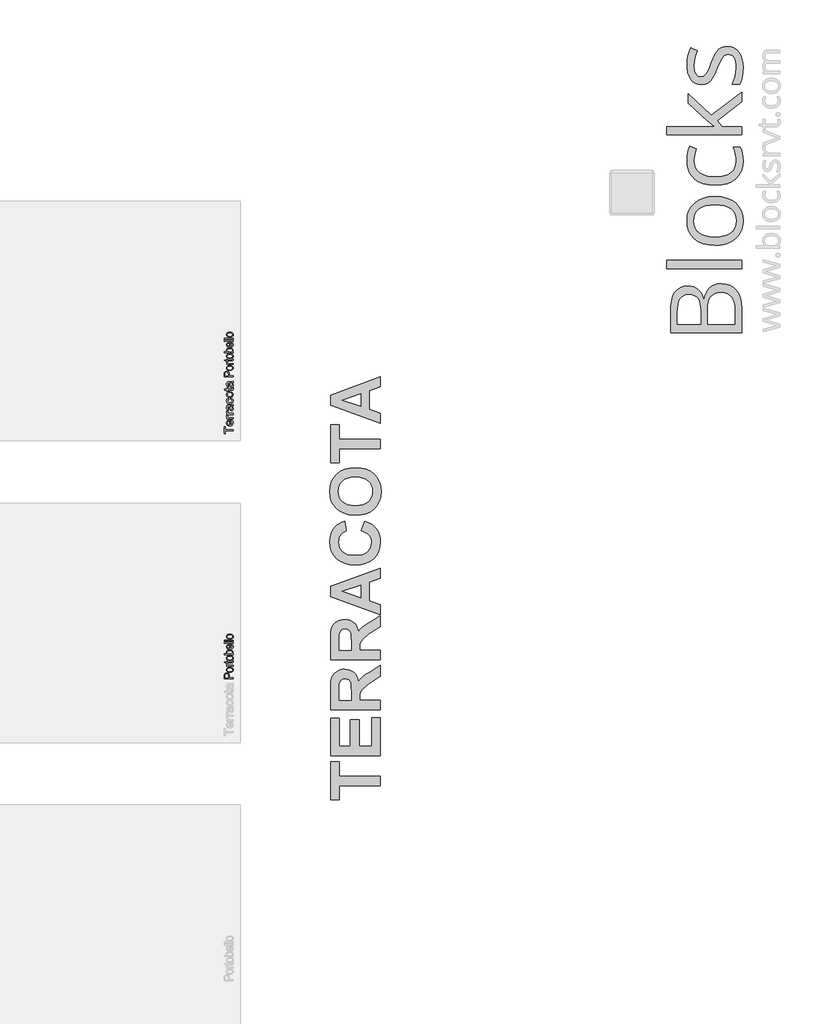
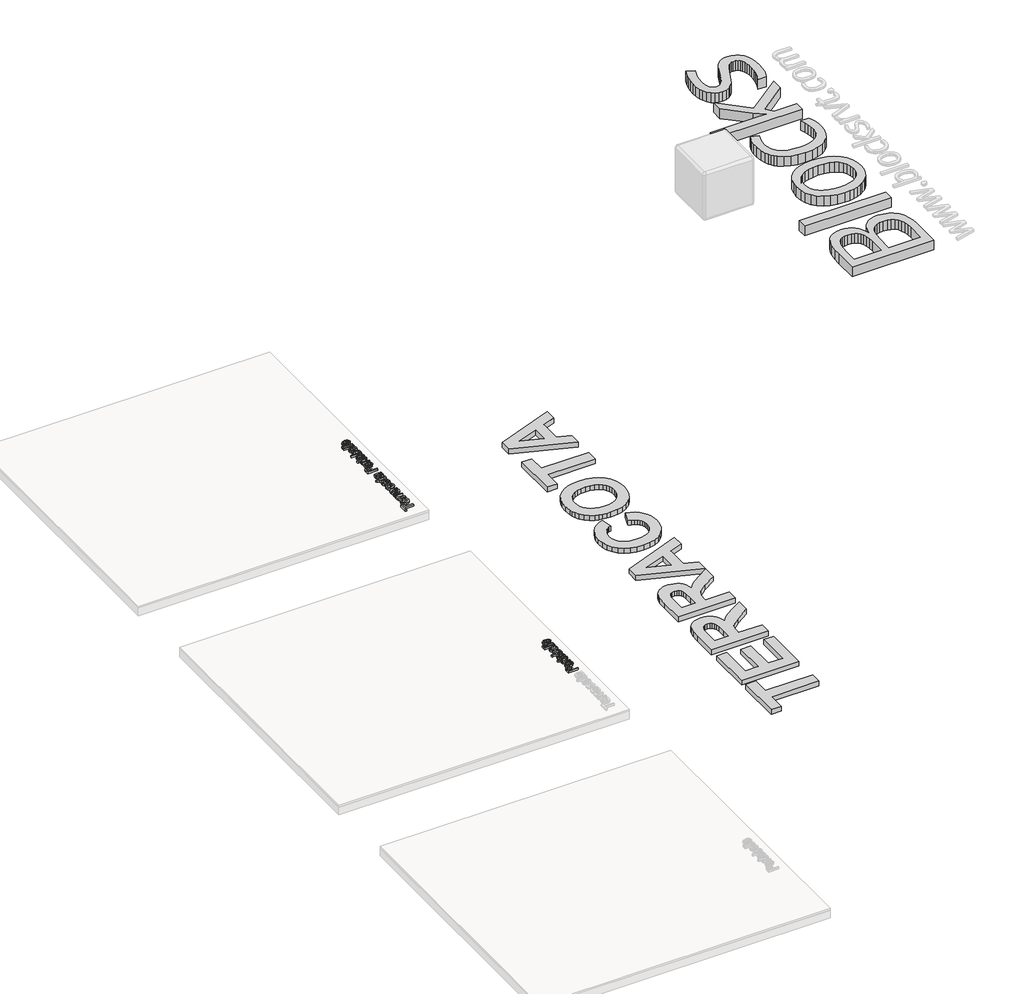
# One storey, part 11 of 12: 5 proxies.
"""IFC4 building model written with IfcOpenShell, lengths in millimetres."""

from ifc_helpers import new_model, si_unit, frame, origin, origin_with_axes, place, context, project, spatial, polyline, outline, extrude, element, save

model = new_model("IFC4")

# Units and contexts
model_context = context("Model", 3, world=origin())
ifc_project = project(units=[si_unit("LENGTHUNIT", "METRE", prefix="MILLI")], contexts=[model_context])

# Site, building, storey
site = spatial("IfcSite", under=ifc_project)
building = spatial("IfcBuilding", under=site)
storey = spatial("IfcBuildingStorey", under=building, Name="PORTOBELLO - SHOWROOM", Elevation=0.0)

# Proxies
placement = place(None, origin())
element("IfcBuildingElementProxy", 1, Name="10mm Arial", ObjectType="10mm Arial", at=placement, inside=storey, context=model_context, shape_type="SweptSolid", body=[
    extrude(outline(polyline([(-15769.6004774, 8757.1715522), (-15857.4997488, 8757.1715522), (-15857.4997488, 8724.2093254), (-15870.0567876, 8724.2093254), (-15870.0567876, 8802.6908177), (-15857.4997488, 8802.6908177), (-15857.4997488, 8769.7285909), (-15769.6004774, 8769.7285909), (-15769.6004774, 8757.1715522)])), frame((0.0, 0.0, 17.0), z_axis=(0.0, 0.0, 1.0), x_axis=(1.0, 0.0, 0.0)), (0.0, 0.0, 1.0), 20.0),
    extrude(outline(polyline([(-15791.5752953, 8866.8984886), (-15790.0056654, 8879.2102727), (-15780.7289078, 8874.774229), (-15773.7943322, 8867.6955663), (-15769.4717187, 8858.1337001), (-15768.0308476, 8846.2480459), (-15770.5171167, 8831.514372), (-15777.9759242, 8820.1774752), (-15789.922892, 8812.948594), (-15805.8736422, 8810.5389669), (-15822.3608869, 8812.9731195), (-15834.6910651, 8820.2755771), (-15842.3797988, 8831.4591897), (-15844.94271, 8845.5368074), (-15842.3859302, 8859.1760324), (-15834.7155906, 8870.0745365), (-15822.4099378, 8877.2206442), (-15805.9472185, 8879.6026802), (-15802.5627042, 8879.5291038), (-15802.5627042, 8823.0960057), (-15793.1633192, 8825.2695752), (-15786.2532691, 8830.3187555), (-15782.004232, 8837.6058847), (-15780.5878863, 8846.4933006), (-15783.2121112, 8858.8050847), (-15791.5752953, 8866.8984886)]), holes=[polyline([(-15815.119743, 8823.0960057), (-15815.119743, 8867.0456414), (-15826.4995593, 8862.0179208), (-15830.9141433, 8854.6970691), (-15832.3856713, 8845.4877565), (-15827.6890445, 8830.02445), (-15822.1984057, 8825.1592106), (-15815.119743, 8823.0960057)])]), frame((0.0, 0.0, 17.0), z_axis=(0.0, 0.0, 1.0), x_axis=(1.0, 0.0, 0.0)), (0.0, 0.0, 1.0), 20.0),
    extrude(outline(polyline([(-15769.6004774, 8892.1597189), (-15843.3730802, 8892.1597189), (-15843.3730802, 8903.1471279), (-15832.4592477, 8903.1471279), (-15842.5146889, 8910.9462262), (-15844.94271, 8918.7943754), (-15841.0676864, 8931.4004651), (-15829.8104973, 8927.2066103), (-15832.3856713, 8918.3774425), (-15829.9085992, 8911.27732), (-15823.0414686, 8906.7523714), (-15808.3752397, 8904.7167577), (-15769.6004774, 8904.7167577), (-15769.6004774, 8892.1597189)])), frame((0.0, 0.0, 17.0), z_axis=(0.0, 0.0, 1.0), x_axis=(1.0, 0.0, 0.0)), (0.0, 0.0, 1.0), 20.0),
    extrude(outline(polyline([(-15769.6004774, 8939.2486143), (-15843.3730802, 8939.2486143), (-15843.3730802, 8950.2360232), (-15832.4592477, 8950.2360232), (-15842.5146889, 8958.0351215), (-15844.94271, 8965.8832708), (-15841.0676864, 8978.4893605), (-15829.8104973, 8974.2955057), (-15832.3856713, 8965.4663378), (-15829.9085992, 8958.3662153), (-15823.0414686, 8953.8412668), (-15808.3752397, 8951.8056531), (-15769.6004774, 8951.8056531), (-15769.6004774, 8939.2486143)])), frame((0.0, 0.0, 17.0), z_axis=(0.0, 0.0, 1.0), x_axis=(1.0, 0.0, 0.0)), (0.0, 0.0, 1.0), 20.0),
    extrude(outline(polyline([(-15779.0182565, 9033.4264051), (-15770.5079197, 9021.249511), (-15768.0308476, 9007.7972928), (-15769.5207697, 8997.3034588), (-15773.9905359, 8989.5626085), (-15780.7779587, 8984.7893396), (-15789.2208505, 8983.19825), (-15799.1536644, 8985.6017457), (-15806.3641515, 8991.9170533), (-15810.4844298, 9000.709433), (-15812.3728907, 9011.5742146), (-15816.6893728, 9033.3528287), (-15819.485276, 9033.4264051), (-15828.7559023, 9029.9683143), (-15832.3856713, 9016.0869004), (-15829.9699128, 9003.3827088), (-15821.3982623, 8997.3249186), (-15822.9678922, 8984.7678799), (-15835.2306254, 8990.2002707), (-15842.416587, 9001.1386286), (-15844.94271, 9017.7055812), (-15842.7108926, 9032.923633), (-15837.1068235, 9041.519809), (-15828.584224, 9045.3703072), (-15817.5968151, 9045.9834439), (-15801.974093, 9045.9834439), (-15780.1586907, 9046.621106), (-15769.6004774, 9049.1227035), (-15769.6004774, 9036.5656648), (-15779.0182565, 9033.4264051)]), holes=[polyline([(-15804.132334, 9033.4264051), (-15800.2818358, 9013.1683699), (-15798.2462221, 9002.364902), (-15794.9352842, 8997.4720714), (-15790.1037673, 8995.7552888), (-15783.3102131, 8999.4954224), (-15780.5878863, 9010.4705686), (-15783.592256, 9023.1747602), (-15790.8640567, 9031.3662659), (-15800.5761414, 9033.3528287), (-15804.132334, 9033.4264051)])]), frame((0.0, 0.0, 17.0), z_axis=(0.0, 0.0, 1.0), x_axis=(1.0, 0.0, 0.0)), (0.0, 0.0, 1.0), 20.0),
    extrude(outline(polyline([(-15796.2841848, 9110.3382675), (-15794.714555, 9122.8953063), (-15783.5462707, 9119.394296), (-15775.1064446, 9112.8153396), (-15769.7997468, 9103.7777053), (-15768.0308476, 9092.900661), (-15770.4987226, 9079.5434789), (-15777.9023478, 9069.0986959), (-15789.9167606, 9062.3572583), (-15806.2169987, 9060.1101125), (-15827.0759078, 9063.948348), (-15840.4790752, 9075.6469954), (-15844.94271, 9092.7289827), (-15843.4098684, 9103.3393126), (-15838.8113435, 9111.8220583), (-15831.3923899, 9117.9074396), (-15821.3982623, 9121.3256765), (-15819.8286325, 9108.7686377), (-15829.2341488, 9102.9438394), (-15832.3856713, 9092.8270846), (-15830.8344355, 9084.7122209), (-15826.1807283, 9078.2712203), (-15818.1731635, 9074.0681685), (-15806.5603552, 9072.6671512), (-15794.791197, 9074.0375117), (-15786.7560411, 9078.148593), (-15782.129925, 9084.4730976), (-15780.5878863, 9092.483728), (-15784.4383846, 9104.3172656), (-15796.2841848, 9110.3382675)])), frame((0.0, 0.0, 17.0), z_axis=(0.0, 0.0, 1.0), x_axis=(1.0, 0.0, 0.0)), (0.0, 0.0, 1.0), 20.0),
    extrude(outline(polyline([(-15806.4867788, 9130.7434555), (-15824.2738733, 9133.4596509), (-15836.7757297, 9141.6082371), (-15842.900965, 9151.6759411), (-15844.94271, 9163.7302078), (-15842.4564409, 9176.921843), (-15834.9976334, 9187.4585965), (-15823.1548989, 9194.3655809), (-15807.5168484, 9196.6679091), (-15785.1741486, 9192.5966817), (-15772.5312707, 9180.7386187), (-15768.0308476, 9163.7302078), (-15770.5079197, 9150.379157), (-15777.939136, 9139.8546663), (-15790.0301909, 9133.0212582), (-15806.4867788, 9130.7434555)]), holes=[polyline([(-15806.5113043, 9143.3004943), (-15795.1468163, 9144.7536282), (-15787.0503467, 9149.1130298), (-15782.2035014, 9155.6735921), (-15780.5878863, 9163.7302078), (-15782.2126985, 9171.7500353), (-15787.0871349, 9178.2983348), (-15795.2909034, 9182.6577364), (-15806.9037117, 9184.1108703), (-15817.9371059, 9182.6485394), (-15825.9232109, 9178.2615466), (-15830.7700562, 9171.70405), (-15832.3856713, 9163.7302078), (-15830.7761875, 9155.6735921), (-15825.9477364, 9149.1130298), (-15817.8696609, 9144.7536282), (-15806.5113043, 9143.3004943)])]), frame((0.0, 0.0, 17.0), z_axis=(0.0, 0.0, 1.0), x_axis=(1.0, 0.0, 0.0)), (0.0, 0.0, 1.0), 20.0),
    extrude(outline(polyline([(-15780.0728516, 9237.4782851), (-15769.2325954, 9239.0479149), (-15768.0308476, 9229.6546613), (-15770.1155122, 9219.1332363), (-15775.5846912, 9213.8847865), (-15789.8339872, 9212.3642075), (-15830.8160414, 9212.3642075), (-15830.8160414, 9202.9464285), (-15843.3730802, 9202.9464285), (-15843.3730802, 9212.3642075), (-15861.3011961, 9212.3642075), (-15868.6833615, 9224.9212463), (-15843.3730802, 9224.9212463), (-15843.3730802, 9237.4782851), (-15830.8160414, 9237.4782851), (-15830.8160414, 9224.9212463), (-15790.2018692, 9224.9212463), (-15783.727146, 9225.5834339), (-15781.4340149, 9227.7294122), (-15780.5878863, 9232.0091061), (-15780.0728516, 9237.4782851)])), frame((0.0, 0.0, 17.0), z_axis=(0.0, 0.0, 1.0), x_axis=(1.0, 0.0, 0.0)), (0.0, 0.0, 1.0), 20.0),
    extrude(outline(polyline([(-15779.0182565, 9297.1242192), (-15770.5079197, 9284.9473252), (-15768.0308476, 9271.4951069), (-15769.5207697, 9261.001273), (-15773.9905359, 9253.2604227), (-15780.7779587, 9248.4871538), (-15789.2208505, 9246.8960642), (-15799.1536644, 9249.2995599), (-15806.3641515, 9255.6148674), (-15810.4844298, 9264.4072471), (-15812.3728907, 9275.2720287), (-15816.6893728, 9297.0506428), (-15819.485276, 9297.1242192), (-15828.7559023, 9293.6661285), (-15832.3856713, 9279.7847145), (-15829.9699128, 9267.080523), (-15821.3982623, 9261.0227328), (-15822.9678922, 9248.465694), (-15835.2306254, 9253.8980848), (-15842.416587, 9264.8364428), (-15844.94271, 9281.4033953), (-15842.7108926, 9296.6214472), (-15837.1068235, 9305.2176231), (-15828.584224, 9309.0681213), (-15817.5968151, 9309.681258), (-15801.974093, 9309.681258), (-15780.1586907, 9310.3189201), (-15769.6004774, 9312.8205177), (-15769.6004774, 9300.2634789), (-15779.0182565, 9297.1242192)]), holes=[polyline([(-15804.132334, 9297.1242192), (-15800.2818358, 9276.866184), (-15798.2462221, 9266.0627161), (-15794.9352842, 9261.1698856), (-15790.1037673, 9259.4531029), (-15783.3102131, 9263.1932365), (-15780.5878863, 9274.1683827), (-15783.592256, 9286.8725743), (-15790.8640567, 9295.0640801), (-15800.5761414, 9297.0506428), (-15804.132334, 9297.1242192)])]), frame((0.0, 0.0, 17.0), z_axis=(0.0, 0.0, 1.0), x_axis=(1.0, 0.0, 0.0)), (0.0, 0.0, 1.0), 20.0),
])
element("IfcBuildingElementProxy", 2, Name="10mm Arial Narrow", ObjectType="10mm Arial Narrow", at=placement, inside=storey, context=model_context, shape_type="SweptSolid", body=[
    extrude(outline(polyline([(-15769.6004774, 9364.3713743), (-15870.3190812, 9364.3713743), (-15870.3190812, 9395.6682589), (-15868.4407604, 9411.9639605), (-15858.9603173, 9423.4369466), (-15841.9412084, 9427.726625), (-15829.8653829, 9425.9403166), (-15820.2389891, 9420.5813914), (-15813.9377307, 9410.8376026), (-15811.8373113, 9395.8967034), (-15811.8373113, 9374.1183359), (-15769.6004774, 9374.1183359), (-15769.6004774, 9364.3713743)]), holes=[polyline([(-15823.2087665, 9374.1183359), (-15823.2087665, 9397.0896909), (-15827.7395807, 9412.9538863), (-15841.4081715, 9417.9796634), (-15851.5739479, 9415.5048489), (-15857.3738977, 9409.52722), (-15858.9476259, 9396.8612464), (-15858.9476259, 9374.1183359), (-15823.2087665, 9374.1183359)])]), frame((0.0, 0.0, 17.0), z_axis=(0.0, 0.0, 1.0), x_axis=(1.0, 0.0, 0.0)), (0.0, 0.0, 1.0), 20.0),
    extrude(outline(polyline([(-15806.1515836, 9435.8490931), (-15822.7423592, 9437.8035619), (-15834.694444, 9443.6669685), (-15841.9189986, 9452.5255353), (-15844.3271834, 9463.4654844), (-15841.9189986, 9474.27852), (-15834.694444, 9483.1624694), (-15822.9327295, 9489.1020242), (-15806.913065, 9491.0818758), (-15789.7511784, 9489.1369254), (-15777.6087233, 9483.3020743), (-15770.3841687, 9474.4530261), (-15767.9759838, 9463.4654844), (-15770.3905144, 9452.6048562), (-15777.634106, 9443.7304253), (-15789.5925365, 9437.8194261), (-15806.1515836, 9435.8490931)]), holes=[polyline([(-15806.1769663, 9445.5960547), (-15793.6252149, 9446.9000916), (-15784.7539569, 9450.8122022), (-15779.4806983, 9456.6533989), (-15777.7229455, 9463.7446942), (-15779.4965625, 9470.4647674), (-15784.8174137, 9476.1568407), (-15793.7045359, 9480.0403958), (-15806.1769663, 9481.3349141), (-15818.6906437, 9480.0308772), (-15827.5492104, 9476.1187667), (-15832.8224689, 9470.2775699), (-15834.5802218, 9463.1862746), (-15832.8129504, 9456.4186088), (-15827.5111363, 9450.736054), (-15818.6430511, 9446.8810545), (-15806.1769663, 9445.5960547)])]), frame((0.0, 0.0, 17.0), z_axis=(0.0, 0.0, 1.0), x_axis=(1.0, 0.0, 0.0)), (0.0, 0.0, 1.0), 20.0),
    extrude(outline(polyline([(-15777.7229455, 9562.5595946), (-15767.9759838, 9564.1840882), (-15767.9759838, 9556.8231015), (-15770.0954403, 9548.5483372), (-15775.8953902, 9544.233276), (-15790.5412154, 9543.0656712), (-15832.9557282, 9543.0656712), (-15832.9557282, 9534.9432032), (-15836.2047154, 9534.9432032), (-15831.3312346, 9533.3187096), (-15832.9557282, 9525.7546612), (-15830.63321, 9519.6755015), (-15824.1479269, 9515.8046379), (-15808.7406203, 9513.8247863), (-15769.6004774, 9513.8247863), (-15769.6004774, 9504.0778246), (-15842.7026898, 9504.0778246), (-15842.7026898, 9513.8247863), (-15833.0064936, 9513.8247863), (-15842.0935047, 9520.0689336), (-15844.3271834, 9526.4653772), (-15842.7026898, 9534.9432032), (-15842.7026898, 9543.0656712), (-15858.9476259, 9543.0656712), (-15867.070094, 9552.8126329), (-15842.7026898, 9552.8126329), (-15842.7026898, 9562.5595946), (-15832.9557282, 9562.5595946), (-15832.9557282, 9552.8126329), (-15788.3075366, 9552.8126329), (-15780.3119822, 9553.6756451), (-15777.7229455, 9558.2952988), (-15777.7229455, 9562.5595946)])), frame((0.0, 0.0, 17.0), z_axis=(0.0, 0.0, 1.0), x_axis=(1.0, 0.0, 0.0)), (0.0, 0.0, 1.0), 20.0),
    extrude(outline(polyline([(-15806.1515836, 9569.057569), (-15822.7423592, 9571.0120379), (-15834.694444, 9576.8754445), (-15841.9189986, 9585.7340112), (-15844.3271834, 9596.6739603), (-15841.9189986, 9607.4869959), (-15834.694444, 9616.3709453), (-15822.9327295, 9622.3105001), (-15806.913065, 9624.2903517), (-15789.7511784, 9622.3454013), (-15777.6087233, 9616.5105503), (-15770.3841687, 9607.6615021), (-15767.9759838, 9596.6739603), (-15770.3905144, 9585.8133322), (-15777.634106, 9576.9389013), (-15789.5925365, 9571.0279021), (-15806.1515836, 9569.057569)]), holes=[polyline([(-15806.1769663, 9578.8045306), (-15793.6252149, 9580.1085675), (-15784.7539569, 9584.0206781), (-15779.4806983, 9589.8618748), (-15777.7229455, 9596.9531702), (-15779.4965625, 9603.6732433), (-15784.8174137, 9609.3653167), (-15793.7045359, 9613.2488717), (-15806.1769663, 9614.54339), (-15818.6906437, 9613.2393532), (-15827.5492104, 9609.3272426), (-15832.8224689, 9603.4860458), (-15834.5802218, 9596.3947505), (-15832.8129504, 9589.6270847), (-15827.5111363, 9583.94453), (-15818.6430511, 9580.0895305), (-15806.1769663, 9578.8045306)])]), frame((0.0, 0.0, 17.0), z_axis=(0.0, 0.0, 1.0), x_axis=(1.0, 0.0, 0.0)), (0.0, 0.0, 1.0), 20.0),
    extrude(outline(polyline([(-15769.6004774, 9647.0332622), (-15769.6004774, 9637.2863006), (-15870.3190812, 9637.2863006), (-15870.3190812, 9647.0332622), (-15834.910197, 9647.0332622), (-15841.9919739, 9654.4323229), (-15844.3271834, 9663.6335563), (-15840.1263445, 9676.5152829), (-15827.3969141, 9685.7926644), (-15806.7100033, 9689.270096), (-15790.2556598, 9687.337837), (-15778.0529207, 9681.54106), (-15770.495218, 9673.1679377), (-15767.9759838, 9663.5066427), (-15770.5904032, 9654.1658045), (-15778.3575133, 9647.0332622), (-15769.6004774, 9647.0332622)]), holes=[polyline([(-15806.7100033, 9647.0332622), (-15789.4624501, 9649.1146447), (-15780.7307969, 9655.003434), (-15777.7229455, 9663.4558773), (-15779.5124267, 9669.3986049), (-15784.8808704, 9674.6369622), (-15806.3038799, 9679.5231344), (-15827.7395807, 9674.8146412), (-15832.8700615, 9669.5699382), (-15834.5802218, 9663.2528156), (-15832.7907405, 9657.2751868), (-15827.4222968, 9651.9828912), (-15806.7100033, 9647.0332622)])]), frame((0.0, 0.0, 17.0), z_axis=(0.0, 0.0, 1.0), x_axis=(1.0, 0.0, 0.0)), (0.0, 0.0, 1.0), 20.0),
    extrude(outline(polyline([(-15792.343388, 9741.2538915), (-15790.7188943, 9751.0008532), (-15780.8323278, 9747.3013228), (-15773.7124769, 9741.4823359), (-15769.4101071, 9733.7786827), (-15767.9759838, 9724.4251531), (-15770.3905144, 9712.8315991), (-15777.634106, 9703.6874768), (-15789.4402402, 9697.7479221), (-15805.5423985, 9695.7680705), (-15822.2093222, 9697.7574406), (-15834.3898514, 9703.7255509), (-15841.8428504, 9712.7395867), (-15844.3271834, 9723.8667334), (-15841.9285171, 9734.5496826), (-15834.7325181, 9743.2971999), (-15822.9930135, 9749.132051), (-15806.9638304, 9751.0770013), (-15803.7148432, 9751.0008532), (-15803.7148432, 9705.5150321), (-15784.2716853, 9711.5180437), (-15779.3601304, 9717.4480799), (-15777.7229455, 9724.5520666), (-15781.3780561, 9734.7305344), (-15792.343388, 9741.2538915)]), holes=[polyline([(-15813.4618049, 9706.1749827), (-15813.4618049, 9741.2538915), (-15827.7268894, 9736.9895958), (-15832.8668887, 9731.1642633), (-15834.5802218, 9723.9428815), (-15828.8691114, 9711.7337967), (-15813.4618049, 9706.1749827)])]), frame((0.0, 0.0, 17.0), z_axis=(0.0, 0.0, 1.0), x_axis=(1.0, 0.0, 0.0)), (0.0, 0.0, 1.0), 20.0),
    extrude(outline(polyline([(-15769.6004774, 9763.9968021), (-15870.3190812, 9763.9968021), (-15870.3190812, 9773.7437637), (-15769.6004774, 9773.7437637), (-15769.6004774, 9763.9968021)])), frame((0.0, 0.0, 17.0), z_axis=(0.0, 0.0, 1.0), x_axis=(1.0, 0.0, 0.0)), (0.0, 0.0, 1.0), 20.0),
    extrude(outline(polyline([(-15769.6004774, 9789.9886998), (-15870.3190812, 9789.9886998), (-15870.3190812, 9799.7356615), (-15769.6004774, 9799.7356615), (-15769.6004774, 9789.9886998)])), frame((0.0, 0.0, 17.0), z_axis=(0.0, 0.0, 1.0), x_axis=(1.0, 0.0, 0.0)), (0.0, 0.0, 1.0), 20.0),
    extrude(outline(polyline([(-15806.1515836, 9811.1071167), (-15822.7423592, 9813.0615856), (-15834.694444, 9818.9249922), (-15841.9189986, 9827.7835589), (-15844.3271834, 9838.7235081), (-15841.9189986, 9849.5365437), (-15834.694444, 9858.4204931), (-15822.9327295, 9864.3600478), (-15806.913065, 9866.3398994), (-15789.7511784, 9864.3949491), (-15777.6087233, 9858.560098), (-15770.3841687, 9849.7110498), (-15767.9759838, 9838.7235081), (-15770.3905144, 9827.8628799), (-15777.634106, 9818.988449), (-15789.5925365, 9813.0774498), (-15806.1515836, 9811.1071167)]), holes=[polyline([(-15806.1769663, 9820.8540784), (-15793.6252149, 9822.1581152), (-15784.7539569, 9826.0702258), (-15779.4806983, 9831.9114226), (-15777.7229455, 9839.0027179), (-15779.4965625, 9845.7227911), (-15784.8174137, 9851.4148644), (-15793.7045359, 9855.2984194), (-15806.1769663, 9856.5929378), (-15818.6906437, 9855.2889009), (-15827.5492104, 9851.3767903), (-15832.8224689, 9845.5355936), (-15834.5802218, 9838.4442982), (-15832.8129504, 9831.6766325), (-15827.5111363, 9825.9940777), (-15818.6430511, 9822.1390782), (-15806.1769663, 9820.8540784)])]), frame((0.0, 0.0, 17.0), z_axis=(0.0, 0.0, 1.0), x_axis=(1.0, 0.0, 0.0)), (0.0, 0.0, 1.0), 20.0),
])
element("IfcBuildingElementProxy", 3, Name="10mm Arial Narrow", ObjectType="10mm Arial Narrow", at=placement, inside=storey, context=model_context, shape_type="SweptSolid", body=[
    extrude(outline(polyline([(-15769.6004774, 5964.3713743), (-15870.3190812, 5964.3713743), (-15870.3190812, 5995.6682589), (-15868.4407604, 6011.9639605), (-15858.9603173, 6023.4369466), (-15841.9412084, 6027.726625), (-15829.8653829, 6025.9403166), (-15820.2389891, 6020.5813914), (-15813.9377307, 6010.8376026), (-15811.8373113, 5995.8967034), (-15811.8373113, 5974.1183359), (-15769.6004774, 5974.1183359), (-15769.6004774, 5964.3713743)]), holes=[polyline([(-15823.2087665, 5974.1183359), (-15823.2087665, 5997.0896909), (-15827.7395807, 6012.9538863), (-15841.4081715, 6017.9796634), (-15851.5739479, 6015.5048489), (-15857.3738977, 6009.52722), (-15858.9476259, 5996.8612464), (-15858.9476259, 5974.1183359), (-15823.2087665, 5974.1183359)])]), frame((0.0, 0.0, 17.0), z_axis=(0.0, 0.0, 1.0), x_axis=(1.0, 0.0, 0.0)), (0.0, 0.0, 1.0), 20.0),
    extrude(outline(polyline([(-15806.1515836, 6035.8490931), (-15822.7423592, 6037.8035619), (-15834.694444, 6043.6669685), (-15841.9189986, 6052.5255353), (-15844.3271834, 6063.4654844), (-15841.9189986, 6074.27852), (-15834.694444, 6083.1624694), (-15822.9327295, 6089.1020242), (-15806.913065, 6091.0818758), (-15789.7511784, 6089.1369254), (-15777.6087233, 6083.3020743), (-15770.3841687, 6074.4530261), (-15767.9759838, 6063.4654844), (-15770.3905144, 6052.6048562), (-15777.634106, 6043.7304253), (-15789.5925365, 6037.8194261), (-15806.1515836, 6035.8490931)]), holes=[polyline([(-15806.1769663, 6045.5960547), (-15793.6252149, 6046.9000916), (-15784.7539569, 6050.8122022), (-15779.4806983, 6056.6533989), (-15777.7229455, 6063.7446942), (-15779.4965625, 6070.4647674), (-15784.8174137, 6076.1568407), (-15793.7045359, 6080.0403958), (-15806.1769663, 6081.3349141), (-15818.6906437, 6080.0308772), (-15827.5492104, 6076.1187667), (-15832.8224689, 6070.2775699), (-15834.5802218, 6063.1862746), (-15832.8129504, 6056.4186088), (-15827.5111363, 6050.736054), (-15818.6430511, 6046.8810545), (-15806.1769663, 6045.5960547)])]), frame((0.0, 0.0, 17.0), z_axis=(0.0, 0.0, 1.0), x_axis=(1.0, 0.0, 0.0)), (0.0, 0.0, 1.0), 20.0),
    extrude(outline(polyline([(-15777.7229455, 6162.5595946), (-15767.9759838, 6164.1840882), (-15767.9759838, 6156.8231015), (-15770.0954403, 6148.5483372), (-15775.8953902, 6144.233276), (-15790.5412154, 6143.0656712), (-15832.9557282, 6143.0656712), (-15832.9557282, 6134.9432032), (-15836.2047154, 6134.9432032), (-15831.3312346, 6133.3187096), (-15832.9557282, 6125.7546612), (-15830.63321, 6119.6755015), (-15824.1479269, 6115.8046379), (-15808.7406203, 6113.8247863), (-15769.6004774, 6113.8247863), (-15769.6004774, 6104.0778246), (-15842.7026898, 6104.0778246), (-15842.7026898, 6113.8247863), (-15833.0064936, 6113.8247863), (-15842.0935047, 6120.0689336), (-15844.3271834, 6126.4653772), (-15842.7026898, 6134.9432032), (-15842.7026898, 6143.0656712), (-15858.9476259, 6143.0656712), (-15867.070094, 6152.8126329), (-15842.7026898, 6152.8126329), (-15842.7026898, 6162.5595946), (-15832.9557282, 6162.5595946), (-15832.9557282, 6152.8126329), (-15788.3075366, 6152.8126329), (-15780.3119822, 6153.6756451), (-15777.7229455, 6158.2952988), (-15777.7229455, 6162.5595946)])), frame((0.0, 0.0, 17.0), z_axis=(0.0, 0.0, 1.0), x_axis=(1.0, 0.0, 0.0)), (0.0, 0.0, 1.0), 20.0),
    extrude(outline(polyline([(-15806.1515836, 6169.057569), (-15822.7423592, 6171.0120379), (-15834.694444, 6176.8754445), (-15841.9189986, 6185.7340112), (-15844.3271834, 6196.6739603), (-15841.9189986, 6207.4869959), (-15834.694444, 6216.3709453), (-15822.9327295, 6222.3105001), (-15806.913065, 6224.2903517), (-15789.7511784, 6222.3454013), (-15777.6087233, 6216.5105503), (-15770.3841687, 6207.6615021), (-15767.9759838, 6196.6739603), (-15770.3905144, 6185.8133322), (-15777.634106, 6176.9389013), (-15789.5925365, 6171.0279021), (-15806.1515836, 6169.057569)]), holes=[polyline([(-15806.1769663, 6178.8045306), (-15793.6252149, 6180.1085675), (-15784.7539569, 6184.0206781), (-15779.4806983, 6189.8618748), (-15777.7229455, 6196.9531702), (-15779.4965625, 6203.6732433), (-15784.8174137, 6209.3653167), (-15793.7045359, 6213.2488717), (-15806.1769663, 6214.54339), (-15818.6906437, 6213.2393532), (-15827.5492104, 6209.3272426), (-15832.8224689, 6203.4860458), (-15834.5802218, 6196.3947505), (-15832.8129504, 6189.6270847), (-15827.5111363, 6183.94453), (-15818.6430511, 6180.0895305), (-15806.1769663, 6178.8045306)])]), frame((0.0, 0.0, 17.0), z_axis=(0.0, 0.0, 1.0), x_axis=(1.0, 0.0, 0.0)), (0.0, 0.0, 1.0), 20.0),
    extrude(outline(polyline([(-15769.6004774, 6247.0332622), (-15769.6004774, 6237.2863006), (-15870.3190812, 6237.2863006), (-15870.3190812, 6247.0332622), (-15834.910197, 6247.0332622), (-15841.9919739, 6254.4323229), (-15844.3271834, 6263.6335563), (-15840.1263445, 6276.5152829), (-15827.3969141, 6285.7926644), (-15806.7100033, 6289.270096), (-15790.2556598, 6287.337837), (-15778.0529207, 6281.54106), (-15770.495218, 6273.1679377), (-15767.9759838, 6263.5066427), (-15770.5904032, 6254.1658045), (-15778.3575133, 6247.0332622), (-15769.6004774, 6247.0332622)]), holes=[polyline([(-15806.7100033, 6247.0332622), (-15789.4624501, 6249.1146447), (-15780.7307969, 6255.003434), (-15777.7229455, 6263.4558773), (-15779.5124267, 6269.3986049), (-15784.8808704, 6274.6369622), (-15806.3038799, 6279.5231344), (-15827.7395807, 6274.8146412), (-15832.8700615, 6269.5699382), (-15834.5802218, 6263.2528156), (-15832.7907405, 6257.2751868), (-15827.4222968, 6251.9828912), (-15806.7100033, 6247.0332622)])]), frame((0.0, 0.0, 17.0), z_axis=(0.0, 0.0, 1.0), x_axis=(1.0, 0.0, 0.0)), (0.0, 0.0, 1.0), 20.0),
    extrude(outline(polyline([(-15792.343388, 6341.2538915), (-15790.7188943, 6351.0008532), (-15780.8323278, 6347.3013228), (-15773.7124769, 6341.4823359), (-15769.4101071, 6333.7786827), (-15767.9759838, 6324.4251531), (-15770.3905144, 6312.8315991), (-15777.634106, 6303.6874768), (-15789.4402402, 6297.7479221), (-15805.5423985, 6295.7680705), (-15822.2093222, 6297.7574406), (-15834.3898514, 6303.7255509), (-15841.8428504, 6312.7395867), (-15844.3271834, 6323.8667334), (-15841.9285171, 6334.5496826), (-15834.7325181, 6343.2971999), (-15822.9930135, 6349.132051), (-15806.9638304, 6351.0770013), (-15803.7148432, 6351.0008532), (-15803.7148432, 6305.5150321), (-15784.2716853, 6311.5180437), (-15779.3601304, 6317.4480799), (-15777.7229455, 6324.5520666), (-15781.3780561, 6334.7305344), (-15792.343388, 6341.2538915)]), holes=[polyline([(-15813.4618049, 6306.1749827), (-15813.4618049, 6341.2538915), (-15827.7268894, 6336.9895958), (-15832.8668887, 6331.1642633), (-15834.5802218, 6323.9428815), (-15828.8691114, 6311.7337967), (-15813.4618049, 6306.1749827)])]), frame((0.0, 0.0, 17.0), z_axis=(0.0, 0.0, 1.0), x_axis=(1.0, 0.0, 0.0)), (0.0, 0.0, 1.0), 20.0),
    extrude(outline(polyline([(-15769.6004774, 6363.9968021), (-15870.3190812, 6363.9968021), (-15870.3190812, 6373.7437637), (-15769.6004774, 6373.7437637), (-15769.6004774, 6363.9968021)])), frame((0.0, 0.0, 17.0), z_axis=(0.0, 0.0, 1.0), x_axis=(1.0, 0.0, 0.0)), (0.0, 0.0, 1.0), 20.0),
    extrude(outline(polyline([(-15769.6004774, 6389.9886998), (-15870.3190812, 6389.9886998), (-15870.3190812, 6399.7356615), (-15769.6004774, 6399.7356615), (-15769.6004774, 6389.9886998)])), frame((0.0, 0.0, 17.0), z_axis=(0.0, 0.0, 1.0), x_axis=(1.0, 0.0, 0.0)), (0.0, 0.0, 1.0), 20.0),
    extrude(outline(polyline([(-15806.1515836, 6411.1071167), (-15822.7423592, 6413.0615856), (-15834.694444, 6418.9249922), (-15841.9189986, 6427.7835589), (-15844.3271834, 6438.7235081), (-15841.9189986, 6449.5365437), (-15834.694444, 6458.4204931), (-15822.9327295, 6464.3600478), (-15806.913065, 6466.3398994), (-15789.7511784, 6464.3949491), (-15777.6087233, 6458.560098), (-15770.3841687, 6449.7110498), (-15767.9759838, 6438.7235081), (-15770.3905144, 6427.8628799), (-15777.634106, 6418.988449), (-15789.5925365, 6413.0774498), (-15806.1515836, 6411.1071167)]), holes=[polyline([(-15806.1769663, 6420.8540784), (-15793.6252149, 6422.1581152), (-15784.7539569, 6426.0702258), (-15779.4806983, 6431.9114226), (-15777.7229455, 6439.0027179), (-15779.4965625, 6445.7227911), (-15784.8174137, 6451.4148644), (-15793.7045359, 6455.2984194), (-15806.1769663, 6456.5929378), (-15818.6906437, 6455.2889009), (-15827.5492104, 6451.3767903), (-15832.8224689, 6445.5355936), (-15834.5802218, 6438.4442982), (-15832.8129504, 6431.6766325), (-15827.5111363, 6425.9940777), (-15818.6430511, 6422.1390782), (-15806.1769663, 6420.8540784)])]), frame((0.0, 0.0, 17.0), z_axis=(0.0, 0.0, 1.0), x_axis=(1.0, 0.0, 0.0)), (0.0, 0.0, 1.0), 20.0),
])
element("IfcBuildingElementProxy", 4, Name="550mm Arial", ObjectType="550mm Arial", at=placement, inside=storey, context=model_context, shape_type="SweptSolid", body=[
    extrude(outline(polyline([(-14110.9395119, 4760.5675642), (-14574.1048903, 4760.5675642), (-14574.1048903, 4600.2410871), (-14672.0821818, 4600.2410871), (-14672.0821818, 5027.7783595), (-14574.1048903, 5027.7783595), (-14574.1048903, 4867.4518823), (-14110.9395119, 4867.4518823), (-14110.9395119, 4760.5675642)])), origin_with_axes(), (0.0, 0.0, 1.0), 50.0),
    extrude(outline(polyline([(-14110.9395119, 5099.0345715), (-14672.0821818, 5099.0345715), (-14672.0821818, 5517.6648174), (-14574.1048903, 5517.6648174), (-14574.1048903, 5205.9188896), (-14449.4065192, 5205.9188896), (-14449.4065192, 5499.8507644), (-14351.4292276, 5499.8507644), (-14351.4292276, 5205.9188896), (-14208.9168034, 5205.9188896), (-14208.9168034, 5526.5718439), (-14110.9395119, 5526.5718439), (-14110.9395119, 5099.0345715)])), origin_with_axes(), (0.0, 0.0, 1.0), 50.0),
    extrude(outline(polyline([(-14110.9395119, 5615.642109), (-14672.0821818, 5615.642109), (-14672.0821818, 5851.6783114), (-14668.289737, 5928.5710012), (-14656.9124023, 5981.1085404), (-14647.848807, 6000.2795232), (-14635.8278005, 6017.4325078), (-14620.8493829, 6032.5674943), (-14602.9135541, 6045.6844825), (-14582.7944601, 6056.2789731), (-14561.2662466, 6063.8464663), (-14538.3289137, 6068.3869622), (-14513.9824613, 6069.9004609), (-14483.634204, 6067.7128464), (-14456.051996, 6061.1500032), (-14431.2358371, 6050.2119311), (-14409.1857276, 6034.8986301), (-14390.4322616, 6015.2274969), (-14375.5060336, 5991.2159279), (-14364.4070435, 5962.8639231), (-14357.1352914, 5930.1714825), (-14334.798139, 5961.1721099), (-14310.3734023, 5986.2579151), (-14274.9888477, 6012.213547), (-14219.772242, 6045.8236548), (-14110.9395119, 6114.4355934), (-14110.9395119, 5989.59805), (-14239.1171902, 5908.3214331), (-14315.1748462, 5844.5109385), (-14328.3788172, 5826.8012647), (-14336.6769649, 5808.0477988), (-14341.060892, 5783.1533555), (-14342.5222011, 5747.02075), (-14342.5222011, 5722.5264271), (-14110.9395119, 5722.5264271), (-14110.9395119, 5615.642109)]), holes=[polyline([(-14440.4994926, 5722.5264271), (-14440.4994926, 5810.6224861), (-14442.1173705, 5880.1564411), (-14446.9710041, 5917.5763904), (-14455.7736514, 5936.6082009), (-14469.2385704, 5950.9777398), (-14487.0004338, 5960.006542), (-14508.6939143, 5963.0161428), (-14532.7185308, 5959.0497325), (-14551.6285656, 5947.1505018), (-14564.9717088, 5928.014312), (-14572.2956505, 5902.3370247), (-14574.1048903, 5815.4935162), (-14574.1048903, 5722.5264271), (-14440.4994926, 5722.5264271)])]), origin_with_axes(), (0.0, 0.0, 1.0), 50.0),
    extrude(outline(polyline([(-14110.9395119, 6176.7847789), (-14672.0821818, 6176.7847789), (-14672.0821818, 6412.8209814), (-14668.289737, 6489.7136712), (-14656.9124023, 6542.2512103), (-14647.848807, 6561.4221932), (-14635.8278005, 6578.5751778), (-14620.8493829, 6593.7101643), (-14602.9135541, 6606.8271525), (-14582.7944601, 6617.421643), (-14561.2662466, 6624.9891363), (-14538.3289137, 6629.5296322), (-14513.9824613, 6631.0431308), (-14483.634204, 6628.8555164), (-14456.051996, 6622.2926732), (-14431.2358371, 6611.354601), (-14409.1857276, 6596.0413001), (-14390.4322616, 6576.3701669), (-14375.5060336, 6552.3585978), (-14364.4070435, 6524.0065931), (-14357.1352914, 6491.3141525), (-14334.798139, 6522.3147799), (-14310.3734023, 6547.400585), (-14274.9888477, 6573.356217), (-14219.772242, 6606.9663248), (-14110.9395119, 6675.5782634), (-14110.9395119, 6550.74072), (-14239.1171902, 6469.4641031), (-14315.1748462, 6405.6536085), (-14328.3788172, 6387.9439347), (-14336.6769649, 6369.1904687), (-14341.060892, 6344.2960255), (-14342.5222011, 6308.1634199), (-14342.5222011, 6283.669097), (-14110.9395119, 6283.669097), (-14110.9395119, 6176.7847789)]), holes=[polyline([(-14440.4994926, 6283.669097), (-14440.4994926, 6371.7651561), (-14442.1173705, 6441.2991111), (-14446.9710041, 6478.7190603), (-14455.7736514, 6497.7508709), (-14469.2385704, 6512.1204097), (-14487.0004338, 6521.149212), (-14508.6939143, 6524.1588127), (-14532.7185308, 6520.1924025), (-14551.6285656, 6508.2931718), (-14564.9717088, 6489.156982), (-14572.2956505, 6463.4796947), (-14574.1048903, 6376.6361862), (-14574.1048903, 6283.669097), (-14440.4994926, 6283.669097)])]), origin_with_axes(), (0.0, 0.0, 1.0), 50.0),
    extrude(outline(polyline([(-14110.9395119, 7209.9998538), (-14110.9395119, 7097.6878165), (-14235.637883, 7053.7093731), (-14235.637883, 6841.7499767), (-14110.9395119, 6798.3282224), (-14110.9395119, 6684.4852899), (-14672.0821818, 6889.3468996), (-14672.0821818, 7003.1898321), (-14110.9395119, 7209.9998538)]), holes=[polyline([(-14333.6151746, 7019.4729899), (-14538.4767842, 6947.2425719), (-14333.6151746, 6875.9863598), (-14333.6151746, 7019.4729899)])]), origin_with_axes(), (0.0, 0.0, 1.0), 50.0),
    extrude(outline(polyline([(-14324.708148, 7628.6300997), (-14289.080042, 7735.5144178), (-14246.8195066, 7720.7534569), (-14210.3607159, 7701.7999307), (-14179.7036701, 7678.6538394), (-14154.8483691, 7651.3151828), (-14135.6382441, 7619.8970385), (-14121.9167262, 7584.512484), (-14113.6838154, 7545.1615192), (-14110.9395119, 7501.8441442), (-14115.6278784, 7448.3237008), (-14129.6929778, 7399.7960632), (-14153.1348103, 7356.2612315), (-14185.9533757, 7317.7192057), (-14226.9048218, 7286.1792856), (-14274.7452962, 7263.6507713), (-14329.474799, 7250.1336627), (-14391.09333, 7245.6279599), (-14456.0693925, 7250.1728049), (-14513.356186, 7263.8073401), (-14562.9537106, 7286.5315655), (-14604.8619662, 7318.345481), (-14638.1676346, 7357.5703208), (-14661.9573978, 7402.5273194), (-14676.2312557, 7453.2164766), (-14680.9892083, 7509.6377924), (-14677.0662894, 7558.9743689), (-14665.2975327, 7603.4399153), (-14645.6829382, 7643.0344316), (-14618.2225059, 7677.7579178), (-14597.685895, 7695.8242206), (-14573.0958912, 7711.4724048), (-14544.4524944, 7724.7024706), (-14511.7557047, 7735.5144178), (-14493.9416517, 7628.6300997), (-14513.517104, 7621.8932911), (-14530.909291, 7612.2599592), (-14546.1182127, 7599.730104), (-14559.1438692, 7584.3037256), (-14569.58614, 7566.5201165), (-14577.0449049, 7546.9185694), (-14581.5201638, 7525.4990843), (-14583.0119168, 7502.2616611), (-14580.3024063, 7470.4999352), (-14572.1738747, 7441.8782841), (-14558.6263222, 7416.3967078), (-14539.6597487, 7394.0552063), (-14514.6304823, 7375.8801751), (-14482.8948512, 7362.89801), (-14444.4528555, 7355.108711), (-14399.304495, 7352.5122779), (-14351.5162103, 7355.0304266), (-14311.1388499, 7362.5848724), (-14278.1724139, 7375.1756154), (-14252.6169023, 7392.8026557), (-14233.498109, 7414.4656923), (-14219.8418281, 7439.1644245), (-14211.6480596, 7466.8988523), (-14208.9168034, 7497.6689756), (-14210.6608062, 7520.5758645), (-14215.8928144, 7541.8387808), (-14224.6128282, 7561.4577245), (-14236.8208474, 7579.4326955), (-14252.7778202, 7595.3722717), (-14272.7446946, 7608.8850312), (-14296.7214705, 7619.9709738), (-14324.708148, 7628.6300997)])), origin_with_axes(), (0.0, 0.0, 1.0), 50.0),
    extrude(outline(polyline([(-14388.0315396, 7806.7706298), (-14429.1047615, 7808.3450164), (-14466.7334692, 7813.0681759), (-14500.9176627, 7820.9401085), (-14531.6573421, 7831.9608142), (-14572.2086678, 7854.1761908), (-14608.4108595, 7883.2458027), (-14638.0371606, 7917.290824), (-14658.8608144, 7954.4324287), (-14668.5419867, 7981.1709047), (-14675.4571099, 8009.8925859), (-14680.9892083, 8073.2855636), (-14676.1921135, 8131.1290463), (-14661.800829, 8182.8837413), (-14637.8153548, 8228.5496487), (-14604.2356909, 8268.1267685), (-14562.1143277, 8300.0929036), (-14512.5037558, 8322.9258573), (-14455.403975, 8336.6256295), (-14390.8149854, 8341.1922203), (-14326.6652584, 8336.6604226), (-14269.9090592, 8323.0650296), (-14220.5463879, 8300.4060413), (-14178.5772444, 8268.6834576), (-14145.0889123, 8229.3672859), (-14121.1686751, 8183.9275335), (-14106.8165328, 8132.3642004), (-14102.0324854, 8074.6772865), (-14106.7947871, 8016.3814939), (-14121.0816924, 7964.3832473), (-14144.8932013, 7918.6825469), (-14178.2293137, 7879.2793925), (-14219.9157634, 7847.5568088), (-14268.7782843, 7824.8978205), (-14324.8168764, 7811.3024275), (-14388.0315396, 7806.7706298)]), holes=[polyline([(-14391.9283637, 7913.6549479), (-14347.5411017, 7916.4949324), (-14308.8773002, 7925.014886), (-14275.936959, 7939.2148087), (-14248.7200782, 7959.0947003), (-14227.4093214, 7983.3498209), (-14212.1873522, 8010.67543), (-14203.0541708, 8041.0715278), (-14200.0097769, 8074.5381142), (-14203.0324251, 8107.9699076), (-14212.1003696, 8138.2616261), (-14227.2136103, 8165.4132699), (-14248.3721474, 8189.4248389), (-14275.5759808, 8209.0611791), (-14308.8251105, 8223.0871364), (-14348.1195366, 8231.5027107), (-14393.4592589, 8234.3079022), (-14438.1683568, 8231.576646), (-14476.8234601, 8223.3828775), (-14509.4245689, 8209.7265966), (-14535.971683, 8190.6078034), (-14556.5517853, 8166.9659108), (-14571.2518583, 8139.7403317), (-14580.0719022, 8108.9310662), (-14583.0119168, 8074.5381142), (-14580.0371091, 8040.1103692), (-14571.112686, 8009.1967244), (-14556.2386476, 7981.79718), (-14535.4149939, 7957.9117359), (-14508.5982334, 7938.5493912), (-14475.7448749, 7924.7191449), (-14436.8549183, 7916.4209972), (-14391.9283637, 7913.6549479)])]), origin_with_axes(), (0.0, 0.0, 1.0), 50.0),
    extrude(outline(polyline([(-14110.9395119, 8554.9608565), (-14574.1048903, 8554.9608565), (-14574.1048903, 8394.6343793), (-14672.0821818, 8394.6343793), (-14672.0821818, 8822.1716517), (-14574.1048903, 8822.1716517), (-14574.1048903, 8661.8451746), (-14110.9395119, 8661.8451746), (-14110.9395119, 8554.9608565)])), origin_with_axes(), (0.0, 0.0, 1.0), 50.0),
    extrude(outline(polyline([(-14110.9395119, 9365.5002687), (-14110.9395119, 9253.1882313), (-14235.637883, 9209.2097879), (-14235.637883, 8997.2503915), (-14110.9395119, 8953.8286373), (-14110.9395119, 8839.9857047), (-14672.0821818, 9044.8473144), (-14672.0821818, 9158.6902469), (-14110.9395119, 9365.5002687)]), holes=[polyline([(-14333.6151746, 9174.9734048), (-14538.4767842, 9102.7429867), (-14333.6151746, 9031.4867746), (-14333.6151746, 9174.9734048)])]), origin_with_axes(), (0.0, 0.0, 1.0), 50.0),
])
element("IfcBuildingElementProxy", 5, Name="80mm OpenSans", ObjectType="80mm OpenSans", at=placement, inside=storey, context=model_context, shape_type="SweptSolid", body=[
    extrude(outline(polyline([(-10842.0600405, 9861.18389), (-10842.0600405, 10086.1670106), (-10839.1230613, 10159.9971085), (-10830.3121238, 10222.8454582), (-10815.6272279, 10274.7120597), (-10795.0683737, 10315.596913), (-10768.1698509, 10346.5666448), (-10734.4659493, 10368.6878818), (-10693.9566688, 10381.9606239), (-10646.6420095, 10386.3848713), (-10612.9831765, 10383.9136024), (-10582.4340863, 10376.4997957), (-10554.9947387, 10364.1434511), (-10530.6651337, 10346.8445686), (-10509.8809359, 10324.8134691), (-10493.0778095, 10298.2604733), (-10480.2557546, 10267.1855811), (-10471.4147713, 10231.5887926), (-10466.1267065, 10231.5887926), (-10456.211585, 10274.1224104), (-10442.2102316, 10310.9848792), (-10424.1226463, 10342.1761989), (-10401.9488292, 10367.6963696), (-10375.6887801, 10387.5453912), (-10345.3424991, 10401.7232638), (-10310.9099863, 10410.2299874), (-10272.3912416, 10413.0655619), (-10221.1556023, 10408.5511771), (-10175.8540131, 10395.0080225), (-10136.4864739, 10372.4360981), (-10103.0529847, 10340.8354041), (-10076.3948284, 10301.1373608), (-10057.3532883, 10254.2733888), (-10045.9283642, 10200.2434881), (-10042.1200562, 10139.0476586), (-10042.1200562, 9861.18389), (-10842.0600405, 9861.18389)]), holes=[polyline([(-10503.6238933, 9954.2057572), (-10503.6238933, 10106.1174369), (-10505.5543374, 10151.5993011), (-10511.3456697, 10190.2156947), (-10520.9978903, 10221.9666179), (-10534.510999, 10246.8520706), (-10552.5910729, 10265.6231983), (-10575.9441886, 10279.0311467), (-10604.5703462, 10287.0759158), (-10638.4695457, 10289.7575054), (-10669.6721326, 10286.7679461), (-10696.217617, 10277.799268), (-10718.1059988, 10262.8514712), (-10735.3372782, 10241.9245557), (-10748.3771652, 10214.4927195), (-10757.6913703, 10180.0301608), (-10763.2798933, 10138.5368797), (-10765.1427343, 10090.0128759), (-10765.1427343, 9954.2057572), (-10503.6238933, 9954.2057572)]), polyline([(-10426.7065871, 9954.2057572), (-10119.0373623, 9954.2057572), (-10119.0373623, 10119.8183321), (-10121.4485396, 10164.9246235), (-10128.6820714, 10204.0968648), (-10140.7379578, 10237.3350562), (-10157.6161987, 10264.6391976), (-10179.6172524, 10285.9341745), (-10207.0415771, 10301.1448723), (-10239.8891728, 10310.2712909), (-10278.1600395, 10313.3134305), (-10313.8544769, 10310.2036878), (-10344.5012161, 10300.8744599), (-10370.1002571, 10285.3257466), (-10390.6515998, 10263.557548), (-10406.4256567, 10235.4496809), (-10417.6928403, 10200.8819618), (-10424.4531504, 10159.8543909), (-10426.7065871, 10112.3669681), (-10426.7065871, 9954.2057572)])]), origin_with_axes(), (0.0, 0.0, 1.0), 100.0),
    extrude(outline(polyline([(-10042.1200562, 10674.8247695), (-10042.1200562, 10583.9662016), (-10888.2104242, 10583.9662016), (-10888.2104242, 10674.8247695), (-10042.1200562, 10674.8247695)])), origin_with_axes(), (0.0, 0.0, 1.0), 100.0),
    extrude(outline(polyline([(-10342.5782834, 11396.1648816), (-10272.2635468, 11391.5453364), (-10210.106251, 11377.6867006), (-10156.1063961, 11354.5889744), (-10110.2639821, 11322.2521577), (-10073.7207502, 11281.7879459), (-10047.6184417, 11234.3080346), (-10031.9570566, 11179.8124236), (-10026.7365949, 11118.301113), (-10029.1327493, 11079.1739404), (-10036.3212124, 11042.3152273), (-10048.3019842, 11007.7249739), (-10065.0750647, 10975.4031801), (-10086.3249728, 10945.9958311), (-10111.7362274, 10920.1489121), (-10141.3088284, 10897.8624231), (-10175.0427759, 10879.1363641), (-10212.3747107, 10864.3087506), (-10252.7412735, 10853.7175981), (-10296.1424644, 10847.3629066), (-10342.5782834, 10845.2446761), (-10412.8629743, 10849.826664), (-10474.9301326, 10863.5726279), (-10528.7797584, 10886.4825678), (-10574.4118516, 10918.5564835), (-10610.7447628, 10958.7728172), (-10636.6968421, 11006.1100109), (-10652.2680898, 11060.5680646), (-10657.4585056, 11122.1469783), (-10652.1479065, 11181.780425), (-10636.216109, 11234.9690427), (-10609.6631131, 11281.7128314), (-10572.488919, 11322.0117911), (-10526.2559092, 11354.4537682), (-10472.5264667, 11377.626609), (-10411.3005915, 11391.5303135), (-10342.5782834, 11396.1648816)]), holes=[polyline([(-10343.2993832, 10939.7087427), (-10288.255436, 10942.5781188), (-10240.1821196, 10951.186247), (-10199.0794341, 10965.5331274), (-10164.9473795, 10985.6187598), (-10138.1314827, 11011.2628695), (-10118.9772707, 11042.2851815), (-10107.4847435, 11078.6856957), (-10103.6539011, 11120.4644123), (-10107.4697206, 11162.2581517), (-10118.9171791, 11198.7037346), (-10137.9962765, 11229.8011612), (-10164.7070129, 11255.5504312), (-10198.763953, 11275.7412241), (-10239.8816614, 11290.163219), (-10288.0601381, 11298.816416), (-10343.2993832, 11301.700815), (-10397.9752691, 11298.816416), (-10445.6655012, 11290.163219), (-10486.3700796, 11275.7412241), (-10520.0890041, 11255.5504312), (-10546.5368396, 11229.7260466), (-10565.4281506, 11198.4032764), (-10576.7629373, 11161.5821207), (-10580.5411995, 11119.2625793), (-10576.8155174, 11077.5214201), (-10565.6384714, 11041.2335777), (-10547.0100613, 11010.3990521), (-10520.9302872, 10985.0178434), (-10487.4742636, 10965.1951118), (-10446.717105, 10951.0360179), (-10398.6588116, 10942.5405615), (-10343.2993832, 10939.7087427)])]), origin_with_axes(), (0.0, 0.0, 1.0), 100.0),
    extrude(outline(polyline([(-10026.7365949, 11798.298173), (-10031.8218504, 11736.268572), (-10047.0776169, 11681.6602892), (-10072.5038944, 11634.4733246), (-10108.1006829, 11594.7076782), (-10152.9966535, 11563.1595643), (-10206.3204774, 11540.6251973), (-10268.0721545, 11527.1045771), (-10338.251685, 11522.5977037), (-10410.2339648, 11527.1721802), (-10473.5480247, 11540.8956097), (-10528.1938648, 11563.7679922), (-10574.171485, 11595.7893278), (-10593.6918805, 11615.0580895), (-10610.6095566, 11636.2685625), (-10624.9245132, 11659.4207468), (-10636.6367505, 11684.5146423), (-10652.2530669, 11740.5275674), (-10657.4585056, 11804.3073376), (-10655.2351148, 11848.0240096), (-10648.5649421, 11891.6805901), (-10638.8901872, 11930.5899305), (-10627.6530495, 11960.0648826), (-10552.4183094, 11931.9419925), (-10572.488919, 11865.4806326), (-10578.5281293, 11831.6189904), (-10580.5411995, 11801.9036717), (-10576.7817159, 11758.5813511), (-10565.5032652, 11721.0353399), (-10546.7058473, 11689.2656381), (-10520.3894624, 11663.2722457), (-10486.5541102, 11643.0551627), (-10445.199791, 11628.6143892), (-10396.3265046, 11619.949925), (-10339.934251, 11617.0617703), (-10286.1672513, 11619.8785662), (-10239.0403783, 11628.3289538), (-10198.5536322, 11642.4129332), (-10164.7070129, 11662.1305044), (-10137.9962765, 11687.376507), (-10118.9171791, 11718.0457805), (-10107.4697206, 11754.1383251), (-10103.6539011, 11795.6541406), (-10105.6819941, 11833.8574042), (-10111.7662732, 11872.5113552), (-10121.9067384, 11911.6159934), (-10136.1033897, 11951.1713191), (-10057.0227842, 11951.1713191), (-10043.7725764, 11918.811968), (-10034.3081422, 11882.5466599), (-10028.6294818, 11842.375395), (-10026.7365949, 11798.298173)])), origin_with_axes(), (0.0, 0.0, 1.0), 100.0),
    extrude(outline(polyline([(-10343.0590166, 12182.8847039), (-10432.4753851, 12254.0332122), (-10642.0750444, 12446.3264776), (-10642.0750444, 12553.2896065), (-10386.3250013, 12311.9615584), (-10042.1200562, 12570.1152673), (-10042.1200562, 12460.7484725), (-10319.0223584, 12250.4277134), (-10261.3343788, 12183.1250705), (-10042.1200562, 12183.1250705), (-10042.1200562, 12093.2279689), (-10888.2104242, 12093.2279689), (-10888.2104242, 12183.1250705), (-10436.0808838, 12183.1250705), (-10343.0590166, 12178.5581055), (-10343.0590166, 12182.8847039)])), origin_with_axes(), (0.0, 0.0, 1.0), 100.0),
    extrude(outline(polyline([(-10203.8867657, 13084.0190192), (-10163.7831038, 13080.0905279), (-10128.5618881, 13068.3050539), (-10098.2231186, 13048.6625973), (-10072.7667953, 13021.1631581), (-10052.6285827, 12986.5729047), (-10038.244145, 12945.6580056), (-10029.6134824, 12898.4184608), (-10026.7365949, 12844.8542703), (-10029.1102149, 12788.1728257), (-10036.2310749, 12738.0714163), (-10048.0991749, 12694.5500421), (-10064.7145149, 12657.6087031), (-10149.8042848, 12657.6087031), (-10130.6650957, 12702.7375288), (-10116.0327801, 12751.1113034), (-10106.7486208, 12800.1460861), (-10103.6539011, 12847.2579361), (-10105.0810777, 12881.1120669), (-10109.3626074, 12910.8048512), (-10116.4984903, 12936.3362891), (-10126.4887264, 12957.7063805), (-10139.4084302, 12974.5846214), (-10155.3327162, 12986.6405078), (-10174.2615845, 12993.8740396), (-10196.1950351, 12996.2852169), (-10213.336177, 12994.3697957), (-10229.1853485, 12988.6235321), (-10243.7425496, 12979.0464261), (-10257.0077803, 12965.6384777), (-10284.5297539, 12920.4796061), (-10316.6186926, 12846.2964698), (-10346.3039655, 12774.1264036), (-10371.9030064, 12726.3535455), (-10397.0513601, 12695.3162106), (-10425.3845709, 12673.3527142), (-10458.2847468, 12660.2827813), (-10497.1339956, 12655.926137), (-10532.317654, 12659.6818648), (-10563.5953554, 12670.9490483), (-10590.9670999, 12689.7276876), (-10614.4328875, 12716.0177824), (-10633.2565954, 12748.8578667), (-10646.7021011, 12787.286474), (-10654.7694045, 12831.3036043), (-10657.4585056, 12880.9092576), (-10654.9647024, 12929.3281009), (-10647.4832925, 12977.2361652), (-10635.0142761, 13024.6334506), (-10617.5576531, 13071.519957), (-10543.2843793, 13038.8301018), (-10559.5842381, 12994.3622842), (-10571.2269944, 12952.0577658), (-10578.2126482, 12911.9165466), (-10580.5411995, 12873.9386267), (-10575.4033638, 12816.7914719), (-10568.9810692, 12794.2120361), (-10559.9898567, 12775.6286947), (-10548.7301846, 12761.1165624), (-10535.5025112, 12750.7507535), (-10520.3068363, 12744.5312682), (-10503.1431601, 12742.4581064), (-10480.4585639, 12745.5528262), (-10461.4395582, 12754.8369854), (-10444.6739891, 12771.0316839), (-10428.749703, 12794.8580213), (-10409.7306972, 12835.1795154), (-10383.6809689, 12900.8596839), (-10363.9408634, 12950.2324821), (-10344.1406662, 12990.9070146), (-10324.2803774, 13022.8832814), (-10304.3599969, 13046.1612826), (-10283.1176003, 13062.7240424), (-10259.2912628, 13074.5545851), (-10232.8809847, 13081.6529107), (-10203.8867657, 13084.0190192)])), origin_with_axes(), (0.0, 0.0, 1.0), 100.0),
])

save(model, "model.ifc")
